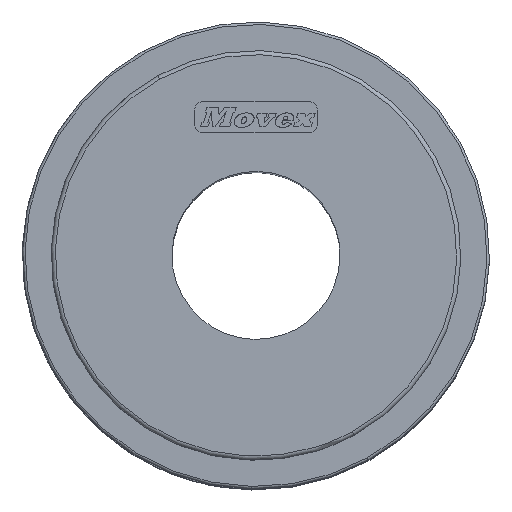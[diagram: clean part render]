
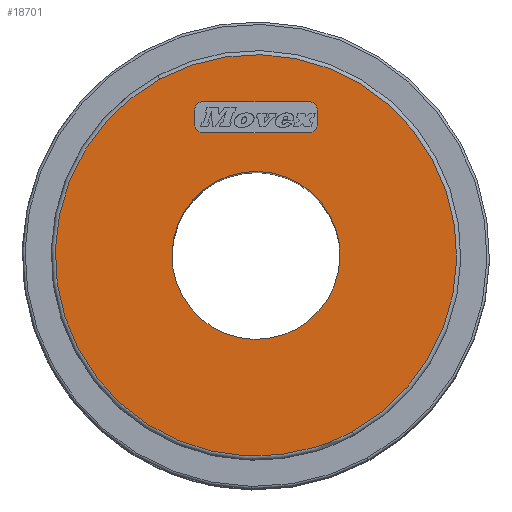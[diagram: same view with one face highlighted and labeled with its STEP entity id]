
A CAD part, top view. The second image highlights one B-rep face of the part: STEP entity #18701.
In plain terms, the highlighted planar face has unit normal (0, 0, 1).
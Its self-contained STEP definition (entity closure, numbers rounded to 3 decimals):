
#3784=CARTESIAN_POINT('Vertex',(4.914,-8.995,0.)) ;
#3787=CARTESIAN_POINT('Axis2P3D Location',(0.,0.,0.)) ;
#3791=CARTESIAN_POINT('Vertex',(-4.914,8.995,0.)) ;
#3816=CARTESIAN_POINT('Axis2P3D Location',(0.,0.,0.)) ;
#4212=CARTESIAN_POINT('Vertex',(6.484,15.,0.)) ;
#4217=CARTESIAN_POINT('Axis2P3D Location',(6.484,16.,0.)) ;
#4221=CARTESIAN_POINT('Vertex',(7.484,16.,0.)) ;
#4249=CARTESIAN_POINT('Vertex',(-6.484,15.,0.)) ;
#4252=CARTESIAN_POINT('Line Origine',(0.,15.,0.)) ;
#4278=CARTESIAN_POINT('Vertex',(-7.484,16.,0.)) ;
#4283=CARTESIAN_POINT('Axis2P3D Location',(-6.484,16.,0.)) ;
#4306=CARTESIAN_POINT('Vertex',(-7.484,17.742,0.)) ;
#4309=CARTESIAN_POINT('Line Origine',(-7.484,16.871,0.)) ;
#4335=CARTESIAN_POINT('Vertex',(-6.484,18.742,0.)) ;
#4340=CARTESIAN_POINT('Axis2P3D Location',(-6.484,17.742,0.)) ;
#4361=CARTESIAN_POINT('Vertex',(6.484,18.742,0.)) ;
#4366=CARTESIAN_POINT('Line Origine',(0.,18.742,0.)) ;
#4392=CARTESIAN_POINT('Vertex',(7.484,17.742,0.)) ;
#4397=CARTESIAN_POINT('Axis2P3D Location',(6.484,17.742,0.)) ;
#4414=CARTESIAN_POINT('Line Origine',(7.484,16.871,0.)) ;
#14777=CARTESIAN_POINT('Axis2P3D Location',(0.,-11.85,0.)) ;
#18661=CARTESIAN_POINT('Axis2P3D Location',(0.,0.,0.)) ;
#18665=CARTESIAN_POINT('Vertex',(11.746,-21.501,0.)) ;
#18667=CARTESIAN_POINT('Vertex',(-11.746,21.501,0.)) ;
#18670=CARTESIAN_POINT('Axis2P3D Location',(0.,0.,0.)) ;
#18674=CARTESIAN_POINT('Vertex',(7.103,-23.448,0.)) ;
#18677=CARTESIAN_POINT('Axis2P3D Location',(0.,0.,0.)) ;
#3788=DIRECTION('Axis2P3D Direction',(0.,0.,1.)) ;
#3817=DIRECTION('Axis2P3D Direction',(0.,0.,1.)) ;
#4218=DIRECTION('Axis2P3D Direction',(0.,0.,1.)) ;
#4253=DIRECTION('Vector Direction',(1.,0.,0.)) ;
#4284=DIRECTION('Axis2P3D Direction',(0.,0.,1.)) ;
#4310=DIRECTION('Vector Direction',(0.,1.,0.)) ;
#4341=DIRECTION('Axis2P3D Direction',(0.,-0.,1.)) ;
#4367=DIRECTION('Vector Direction',(1.,0.,0.)) ;
#4398=DIRECTION('Axis2P3D Direction',(0.,0.,1.)) ;
#4415=DIRECTION('Vector Direction',(0.,-1.,0.)) ;
#14778=DIRECTION('Axis2P3D Direction',(0.,0.,1.)) ;
#14779=DIRECTION('Axis2P3D XDirection',(1.,0.,0.)) ;
#18662=DIRECTION('Axis2P3D Direction',(0.,0.,1.)) ;
#18671=DIRECTION('Axis2P3D Direction',(0.,0.,1.)) ;
#18678=DIRECTION('Axis2P3D Direction',(0.,0.,1.)) ;
#3789=AXIS2_PLACEMENT_3D('Circle Axis2P3D',#3787,#3788,$) ;
#3818=AXIS2_PLACEMENT_3D('Circle Axis2P3D',#3816,#3817,$) ;
#4219=AXIS2_PLACEMENT_3D('Circle Axis2P3D',#4217,#4218,$) ;
#4285=AXIS2_PLACEMENT_3D('Circle Axis2P3D',#4283,#4284,$) ;
#4342=AXIS2_PLACEMENT_3D('Circle Axis2P3D',#4340,#4341,$) ;
#4399=AXIS2_PLACEMENT_3D('Circle Axis2P3D',#4397,#4398,$) ;
#14780=AXIS2_PLACEMENT_3D('Plane Axis2P3D',#14777,#14778,#14779) ;
#18663=AXIS2_PLACEMENT_3D('Circle Axis2P3D',#18661,#18662,$) ;
#18672=AXIS2_PLACEMENT_3D('Circle Axis2P3D',#18670,#18671,$) ;
#18679=AXIS2_PLACEMENT_3D('Circle Axis2P3D',#18677,#18678,$) ;
#18683=ORIENTED_EDGE('',*,*,#18669,.T.) ;
#18684=ORIENTED_EDGE('',*,*,#18676,.T.) ;
#18685=ORIENTED_EDGE('',*,*,#18681,.T.) ;
#18688=ORIENTED_EDGE('',*,*,#3820,.F.) ;
#18689=ORIENTED_EDGE('',*,*,#3793,.F.) ;
#18692=ORIENTED_EDGE('',*,*,#4223,.F.) ;
#18693=ORIENTED_EDGE('',*,*,#4256,.F.) ;
#18694=ORIENTED_EDGE('',*,*,#4287,.F.) ;
#18695=ORIENTED_EDGE('',*,*,#4313,.F.) ;
#18696=ORIENTED_EDGE('',*,*,#4344,.F.) ;
#18697=ORIENTED_EDGE('',*,*,#4370,.F.) ;
#18698=ORIENTED_EDGE('',*,*,#4401,.F.) ;
#18699=ORIENTED_EDGE('',*,*,#4418,.F.) ;
#18690=FACE_BOUND('',#18687,.T.) ;
#18700=FACE_BOUND('',#18691,.T.) ;
#4254=VECTOR('Line Direction',#4253,1.) ;
#4311=VECTOR('Line Direction',#4310,1.) ;
#4368=VECTOR('Line Direction',#4367,1.) ;
#4416=VECTOR('Line Direction',#4415,1.) ;
#18701=ADVANCED_FACE('PartBody',(#18686,#18690,#18700),#14781,.T.) ;
#3790=CIRCLE('generated circle',#3789,10.25) ;
#3819=CIRCLE('generated circle',#3818,10.25) ;
#4220=CIRCLE('generated circle',#4219,1.) ;
#4286=CIRCLE('generated circle',#4285,1.) ;
#4343=CIRCLE('generated circle',#4342,1.) ;
#4400=CIRCLE('generated circle',#4399,1.) ;
#18664=CIRCLE('generated circle',#18663,24.5) ;
#18673=CIRCLE('generated circle',#18672,24.5) ;
#18680=CIRCLE('generated circle',#18679,24.5) ;
#3793=EDGE_CURVE('',#3785,#3792,#3790,.T.) ;
#3820=EDGE_CURVE('',#3792,#3785,#3819,.T.) ;
#4223=EDGE_CURVE('',#4213,#4222,#4220,.T.) ;
#4256=EDGE_CURVE('',#4250,#4213,#4255,.T.) ;
#4287=EDGE_CURVE('',#4279,#4250,#4286,.T.) ;
#4313=EDGE_CURVE('',#4307,#4279,#4312,.F.) ;
#4344=EDGE_CURVE('',#4336,#4307,#4343,.T.) ;
#4370=EDGE_CURVE('',#4362,#4336,#4369,.F.) ;
#4401=EDGE_CURVE('',#4393,#4362,#4400,.T.) ;
#4418=EDGE_CURVE('',#4222,#4393,#4417,.F.) ;
#18669=EDGE_CURVE('',#18666,#18668,#18664,.T.) ;
#18676=EDGE_CURVE('',#18668,#18675,#18673,.T.) ;
#18681=EDGE_CURVE('',#18675,#18666,#18680,.T.) ;
#18682=EDGE_LOOP('',(#18683,#18684,#18685)) ;
#18687=EDGE_LOOP('',(#18688,#18689)) ;
#18691=EDGE_LOOP('',(#18692,#18693,#18694,#18695,#18696,#18697,#18698,#18699)) ;
#18686=FACE_OUTER_BOUND('',#18682,.T.) ;
#4255=LINE('Line',#4252,#4254) ;
#4312=LINE('Line',#4309,#4311) ;
#4369=LINE('Line',#4366,#4368) ;
#4417=LINE('Line',#4414,#4416) ;
#14781=PLANE('',#14780) ;
#3785=VERTEX_POINT('',#3784) ;
#3792=VERTEX_POINT('',#3791) ;
#4213=VERTEX_POINT('',#4212) ;
#4222=VERTEX_POINT('',#4221) ;
#4250=VERTEX_POINT('',#4249) ;
#4279=VERTEX_POINT('',#4278) ;
#4307=VERTEX_POINT('',#4306) ;
#4336=VERTEX_POINT('',#4335) ;
#4362=VERTEX_POINT('',#4361) ;
#4393=VERTEX_POINT('',#4392) ;
#18666=VERTEX_POINT('',#18665) ;
#18668=VERTEX_POINT('',#18667) ;
#18675=VERTEX_POINT('',#18674) ;
